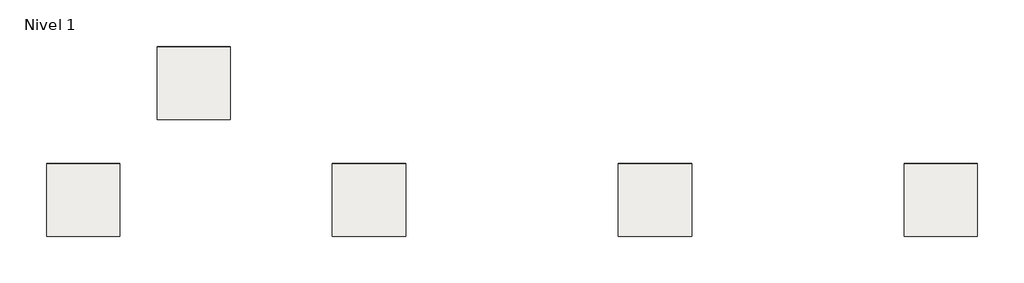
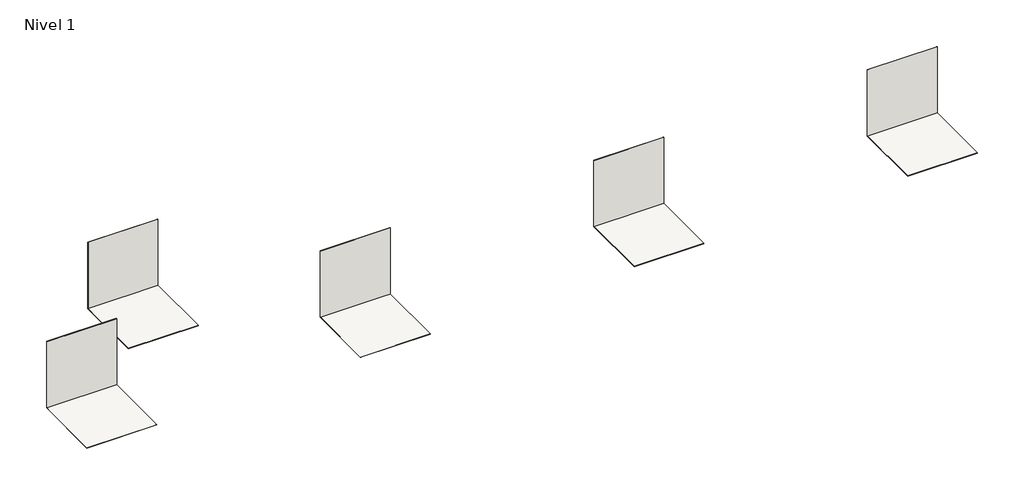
# One storey: 5 slabs, 5 walls.
"""IFC4 building model written with IfcOpenShell, lengths in millimetres."""

from ifc_helpers import new_model, si_unit, frame, origin, origin_with_axes, place, context, project, spatial, polyline, outline, extrude, element, save

model = new_model("IFC4")

# Units and contexts
model_context = context("Model", 3, world=origin())
ifc_project = project(units=[si_unit("LENGTHUNIT", "METRE", prefix="MILLI")], contexts=[model_context])

# Site, building, storey
site = spatial("IfcSite", under=ifc_project)
building = spatial("IfcBuilding", under=site)
storey = spatial("IfcBuildingStorey", under=building, Name="Nivel 1", Elevation=0.0)

# Slabs
placement = place(None, origin())
element("IfcSlab", 1, ObjectType="Pieza 490_Patrón 1/3_Bohème_Glacé_Anti-Slip", at=placement, inside=storey, context=model_context, shape_type="SweptSolid", body=[
    extrude(outline(polyline([(2850.0038801, 4877.1285948), (2850.0038801, 3395.1285948), (1368.0038801, 3395.1285948), (1368.0038801, 4877.1285948), (2850.0038801, 4877.1285948)])), frame((0.0, 0.0, -9.0), z_axis=(0.0, 0.0, 1.0), x_axis=(1.0, 0.0, 0.0)), (0.0, 0.0, 1.0), 9.0),
])
element("IfcSlab", 2, ObjectType="Pieza 490_Patrón 1/3_Bohème_Glacé_Liso", at=placement, inside=storey, context=model_context, shape_type="SweptSolid", body=[
    extrude(outline(polyline([(5094.3497649, 7250.1084136), (5094.3497649, 5768.1084136), (3612.3497649, 5768.1084136), (3612.3497649, 7250.1084136), (5094.3497649, 7250.1084136)])), frame((0.0, 0.0, -9.0), z_axis=(0.0, 0.0, 1.0), x_axis=(1.0, 0.0, 0.0)), (0.0, 0.0, 1.0), 9.0),
])
element("IfcSlab", 3, ObjectType="Pieza 490_Patrón 1/3_Pietro_Grey_Anti-Slip", at=placement, inside=storey, context=model_context, shape_type="SweptSolid", body=[
    extrude(outline(polyline([(8650.0038801, 4877.1285948), (8650.0038801, 3395.1285948), (7168.0038801, 3395.1285948), (7168.0038801, 4877.1285948), (8650.0038801, 4877.1285948)])), frame((0.0, 0.0, -9.0), z_axis=(0.0, 0.0, 1.0), x_axis=(1.0, 0.0, 0.0)), (0.0, 0.0, 1.0), 9.0),
])
element("IfcSlab", 4, ObjectType="Pieza 490_Patrón 1/3_Serena_Ocra_Anti-Slip", at=placement, inside=storey, context=model_context, shape_type="SweptSolid", body=[
    extrude(outline(polyline([(14450.0038801, 4877.1285948), (14450.0038801, 3395.1285948), (12968.0038801, 3395.1285948), (12968.0038801, 4877.1285948), (14450.0038801, 4877.1285948)])), frame((0.0, 0.0, -9.0), z_axis=(0.0, 0.0, 1.0), x_axis=(1.0, 0.0, 0.0)), (0.0, 0.0, 1.0), 9.0),
])
element("IfcSlab", 5, ObjectType="Pieza 490_Patrón 1/3_Serena_Bianco_Anti-Slip", at=placement, inside=storey, context=model_context, shape_type="SweptSolid", body=[
    extrude(outline(polyline([(20250.0038801, 4877.1285948), (20250.0038801, 3395.1285948), (18768.0038801, 3395.1285948), (18768.0038801, 4877.1285948), (20250.0038801, 4877.1285948)])), frame((0.0, 0.0, -9.0), z_axis=(0.0, 0.0, 1.0), x_axis=(1.0, 0.0, 0.0)), (0.0, 0.0, 1.0), 9.0),
])

# Walls
element("IfcWall", 6, ObjectType="Pieza 490_Patrón 1/3_Bohème_Glacé_Anti-Slip", at=placement, inside=storey, context=model_context, shape_type="SweptSolid", body=[
    extrude(outline(polyline([(2850.0038801, 4868.1285948), (1368.0038801, 4868.1285948), (1368.0038801, 4877.1285948), (2850.0038801, 4877.1285948), (2850.0038801, 4868.1285948)])), origin_with_axes(), (0.0, 0.0, 1.0), 1482.0),
])
element("IfcWall", 7, ObjectType="Pieza 490_Patrón 1/3_Bohème_Glacé_Liso", at=placement, inside=storey, context=model_context, shape_type="SweptSolid", body=[
    extrude(outline(polyline([(5094.3497649, 7241.1084136), (3612.3497649, 7241.1084136), (3612.3497649, 7250.1084136), (5094.3497649, 7250.1084136), (5094.3497649, 7241.1084136)])), origin_with_axes(), (0.0, 0.0, 1.0), 1482.0),
])
element("IfcWall", 8, ObjectType="Pieza 490_Patrón 1/3_Pietro_Grey_Anti-Slip", at=placement, inside=storey, context=model_context, shape_type="SweptSolid", body=[
    extrude(outline(polyline([(8650.0038801, 4868.1285948), (7168.0038801, 4868.1285948), (7168.0038801, 4877.1285948), (8650.0038801, 4877.1285948), (8650.0038801, 4868.1285948)])), origin_with_axes(), (0.0, 0.0, 1.0), 1482.0),
])
element("IfcWall", 9, ObjectType="Pieza 490_Patrón 1/3_Serena_Ocra_Anti-Slip", at=placement, inside=storey, context=model_context, shape_type="SweptSolid", body=[
    extrude(outline(polyline([(14450.0038801, 4868.1285948), (12968.0038801, 4868.1285948), (12968.0038801, 4877.1285948), (14450.0038801, 4877.1285948), (14450.0038801, 4868.1285948)])), origin_with_axes(), (0.0, 0.0, 1.0), 1482.0),
])
element("IfcWall", 10, ObjectType="Pieza 490_Patrón 1/3_Serena_Bianco_Anti-Slip", at=placement, inside=storey, context=model_context, shape_type="SweptSolid", body=[
    extrude(outline(polyline([(20250.0038801, 4868.1285948), (18768.0038801, 4868.1285948), (18768.0038801, 4877.1285948), (20250.0038801, 4877.1285948), (20250.0038801, 4868.1285948)])), origin_with_axes(), (0.0, 0.0, 1.0), 1482.0),
])

save(model, "model.ifc")
